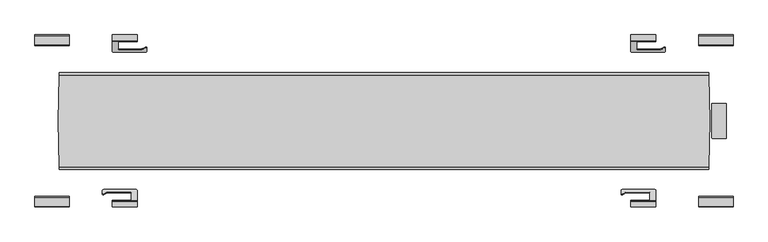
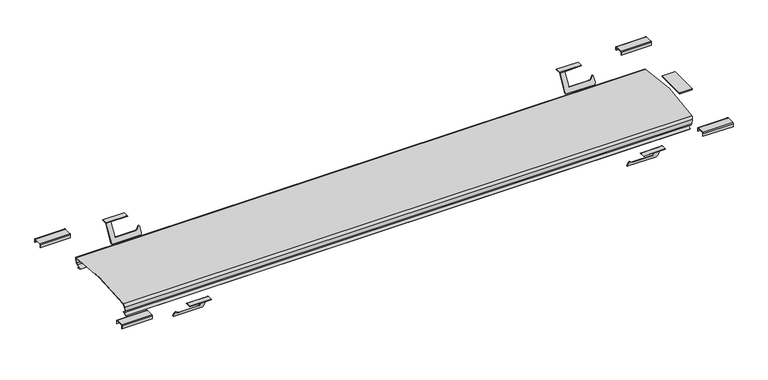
"""IFC4 building model written with IfcOpenShell, lengths in millimetres: light fixture geometry."""

from ifc_helpers import new_model, si_unit, point, frame, frame_2d, origin, origin_with_axes, place, context, project, spatial, polyline, circle_curve, ellipse_curve, trimmed, segment, composite_curve, outline, extrude, source, transform, mapped, element, save
from ifc_brep_helpers import plane_surface, cylinder_surface, revolved_surface, advanced_brep


def light_fixture_525445fe(model_context):
    return source(origin(), model_context, "Body", "SolidModel", [
        extrude(outline(composite_curve([segment(trimmed(circle_curve(frame_2d((593.4860566, 32.8813286)), 0.79375), [point((593.4860566, 33.6750786))], [point((594.2798066, 32.8813286))], False, "CARTESIAN"), True, "CONTINUOUS"), segment(polyline([(594.2798066, 32.8813286), (594.2798066, -25.7936714)]), True, "CONTINUOUS"), segment(trimmed(circle_curve(frame_2d((593.4860566, -25.7936714)), 0.79375), [point((594.2798066, -25.7936714))], [point((593.4860566, -26.5874214))], False, "CARTESIAN"), True, "CONTINUOUS"), segment(polyline([(593.4860566, -26.5874214), (569.7110566, -26.5874214)]), True, "CONTINUOUS"), segment(trimmed(circle_curve(frame_2d((569.7110566, -25.7936714)), 0.79375), [point((569.7110566, -26.5874214))], [point((568.9173066, -25.7936714))], False, "CARTESIAN"), True, "CONTINUOUS"), segment(polyline([(568.9173066, -25.7936714), (568.9173066, 32.8813286)]), True, "CONTINUOUS"), segment(trimmed(circle_curve(frame_2d((569.7110566, 32.8813286)), 0.79375), [point((568.9173066, 32.8813286))], [point((569.7110566, 33.6750786))], False, "CARTESIAN"), True, "CONTINUOUS"), segment(polyline([(569.7110566, 33.6750786), (593.4860566, 33.6750786)]), True, "CONTINUOUS")], self_intersect=False)), origin_with_axes(), (0.0, 0.0, 1.0), 1.984375),
        advanced_brep(
        [(-560.7049594, -78.4782255, -30.5886096), (-561.3946827, -80.5144833, -26.6769947), (-562.975013, -80.5144833, -17.7144962), (-563.7968268, -76.7312326, -13.0537584), (-563.802569, 83.6637386, -13.0211931), (-562.9727304, 87.4855167, -17.7274414), (-561.3743998, 87.4855167, -26.7920248), (-560.6846765, 85.4492589, -30.7036397), (-559.9280968, 79.3213945, -34.9944165), (-559.4545356, 85.9565252, -37.6801157), (-559.2923672, 85.5842575, -38.5998182), (-559.8867318, 77.256535, -35.2290094), (-560.8279867, 84.8801635, -29.8908873), (-561.3743998, 86.4933292, -26.7920248), (-562.9727304, 86.4933292, -17.7274414), (-563.6313431, 83.4601226, -13.9922629), (-563.6256156, -76.5272223, -14.0247455), (-562.975013, -79.5222958, -17.7144962), (-561.3946827, -79.5222958, -26.6769947), (-560.8482696, -77.9091301, -29.7758572), (-559.8867318, -70.1212216, -35.2290094), (-559.2923672, -78.4489441, -38.5998182), (-559.4545356, -78.8212117, -37.6801157), (-559.9280968, -72.186081, -34.9944165), (561.3946827, -80.5144833, -26.6769947), (560.7049594, -78.4782255, -30.5886096), (559.9280968, -72.186081, -34.9944165), (559.4545356, -78.8212117, -37.6801157), (559.2923672, -78.4489441, -38.5998182), (559.8867318, -70.1212216, -35.2290094), (560.8482696, -77.9091301, -29.7758572), (561.3946827, -79.5222958, -26.6769947), (562.975013, -79.5222958, -17.7144962), (563.6256156, -76.5272223, -14.0247455), (563.6313431, 83.4601226, -13.9922629), (562.9727304, 86.4933292, -17.7274414), (561.3743998, 86.4933292, -26.7920248), (560.8279867, 84.8801635, -29.8908873), (559.8867318, 77.256535, -35.2290094), (559.2923672, 85.5842575, -38.5998182), (559.4545356, 85.9565252, -37.6801157), (559.9280968, 79.3213945, -34.9944165), (560.6846765, 85.4492589, -30.7036397), (561.3743998, 87.4855167, -26.7920248), (562.9727304, 87.4855167, -17.7274414), (563.802569, 83.6637386, -13.0211931), (563.7968268, -76.7312326, -13.0537584), (562.975013, -80.5144833, -17.7144962)],
        [
            (0, 1, ellipse_curve(frame((-561.3946827, -75.7392833, -26.6769947), z_axis=(-0.9848077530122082, 0.0, -0.1736481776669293), x_axis=(0.1736481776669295, 0.0, -0.9848077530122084)), 4.8488652, 4.7752)),
            (1, 2),
            (2, 3, ellipse_curve(frame((-562.975013, -75.7519833, -17.7144962), z_axis=(-0.9848077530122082, 0.0, -0.1736481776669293), x_axis=(0.1736481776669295, 0.0, -0.9848077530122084)), 4.8359692, 4.7625)),
            (3, 4, ellipse_curve(frame((-496.4277167, 3.5438286, -395.1229676), z_axis=(-0.9848077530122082, 0.0, -0.1736481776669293), x_axis=(0.1736481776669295, 0.0, -0.9848077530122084)), 396.4340014, 390.4112781)),
            (4, 5, ellipse_curve(frame((-562.9727304, 82.6769225, -17.7274414), z_axis=(-0.9848077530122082, 0.0, -0.1736481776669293), x_axis=(0.1736481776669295, 0.0, -0.9848077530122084)), 4.8827746, 4.8085943)),
            (5, 6),
            (6, 7, ellipse_curve(frame((-561.3743998, 82.7103167, -26.7920248), z_axis=(-0.9848077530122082, 0.0, -0.1736481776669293), x_axis=(0.1736481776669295, 0.0, -0.9848077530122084)), 4.8488652, 4.7752)),
            (7, 8),
            (8, 9),
            (9, 10),
            (10, 11),
            (11, 12),
            (12, 13, ellipse_curve(frame((-561.3743998, 82.7103167, -26.7920248), z_axis=(0.9848077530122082, 0.0, 0.1736481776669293), x_axis=(-0.1736481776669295, 0.0, 0.9848077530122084)), 3.8413716, 3.7830125)),
            (13, 14),
            (14, 15, ellipse_curve(frame((-562.9727304, 82.6769225, -17.7274414), z_axis=(0.9848077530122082, 0.0, 0.1736481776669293), x_axis=(-0.1736481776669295, 0.0, 0.9848077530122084)), 3.875281, 3.8164068)),
            (15, 16, ellipse_curve(frame((-496.4277167, 3.5438286, -395.1229676), z_axis=(0.9848077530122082, 0.0, 0.1736481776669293), x_axis=(-0.1736481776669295, 0.0, 0.9848077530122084)), 395.4265078, 389.4190906)),
            (16, 17, ellipse_curve(frame((-562.975013, -75.7519833, -17.7144962), z_axis=(0.9848077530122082, 0.0, 0.1736481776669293), x_axis=(-0.1736481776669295, 0.0, 0.9848077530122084)), 3.8284756, 3.7703125)),
            (17, 18),
            (18, 19, ellipse_curve(frame((-561.3946827, -75.7392833, -26.6769947), z_axis=(0.9848077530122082, 0.0, 0.1736481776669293), x_axis=(-0.1736481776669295, 0.0, 0.9848077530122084)), 3.8413716, 3.7830125)),
            (19, 20),
            (20, 21),
            (21, 22),
            (22, 23),
            (23, 0),
            (24, 25, ellipse_curve(frame((561.3946827, -75.7392833, -26.6769947), z_axis=(0.9848077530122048, 0.0, -0.17364817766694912), x_axis=(0.17364817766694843, 0.0, 0.9848077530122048)), 4.8488652, 4.7752)),
            (25, 26),
            (26, 27),
            (27, 28),
            (28, 29),
            (29, 30),
            (30, 31, ellipse_curve(frame((561.3946827, -75.7392833, -26.6769947), z_axis=(-0.9848077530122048, 0.0, 0.17364817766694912), x_axis=(-0.17364817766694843, 0.0, -0.9848077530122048)), 3.8413716, 3.7830125)),
            (31, 32),
            (32, 33, ellipse_curve(frame((562.975013, -75.7519833, -17.7144962), z_axis=(-0.9848077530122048, 0.0, 0.17364817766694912), x_axis=(-0.17364817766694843, 0.0, -0.9848077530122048)), 3.8284756, 3.7703125)),
            (33, 34, ellipse_curve(frame((496.4277167, 3.5438286, -395.1229676), z_axis=(-0.9848077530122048, 0.0, 0.17364817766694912), x_axis=(-0.17364817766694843, 0.0, -0.9848077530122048)), 395.4265078, 389.4190906)),
            (34, 35, ellipse_curve(frame((562.9727304, 82.6769225, -17.7274414), z_axis=(-0.9848077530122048, 0.0, 0.17364817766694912), x_axis=(-0.17364817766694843, 0.0, -0.9848077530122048)), 3.875281, 3.8164068)),
            (35, 36),
            (36, 37, ellipse_curve(frame((561.3743998, 82.7103167, -26.7920248), z_axis=(-0.9848077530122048, 0.0, 0.17364817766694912), x_axis=(-0.17364817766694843, 0.0, -0.9848077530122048)), 3.8413716, 3.7830125)),
            (37, 38),
            (38, 39),
            (39, 40),
            (40, 41),
            (41, 42),
            (42, 43, ellipse_curve(frame((561.3743998, 82.7103167, -26.7920248), z_axis=(0.9848077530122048, 0.0, -0.17364817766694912), x_axis=(0.17364817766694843, 0.0, 0.9848077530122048)), 4.8488652, 4.7752)),
            (43, 44),
            (44, 45, ellipse_curve(frame((562.9727304, 82.6769225, -17.7274414), z_axis=(0.9848077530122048, 0.0, -0.17364817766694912), x_axis=(0.17364817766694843, 0.0, 0.9848077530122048)), 4.8827746, 4.8085943)),
            (45, 46, ellipse_curve(frame((496.4277167, 3.5438286, -395.1229676), z_axis=(0.9848077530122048, 0.0, -0.17364817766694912), x_axis=(0.17364817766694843, 0.0, 0.9848077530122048)), 396.4340014, 390.4112781)),
            (46, 47, ellipse_curve(frame((562.975013, -75.7519833, -17.7144962), z_axis=(0.9848077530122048, 0.0, -0.17364817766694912), x_axis=(0.17364817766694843, 0.0, 0.9848077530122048)), 4.8359692, 4.7625)),
            (47, 24),
            (24, 1),
            (0, 25),
            (23, 26),
            (22, 27),
            (21, 28),
            (20, 29),
            (19, 30),
            (18, 31),
            (17, 32),
            (16, 33),
            (15, 34),
            (14, 35),
            (13, 36),
            (12, 37),
            (11, 38),
            (10, 39),
            (9, 40),
            (8, 41),
            (7, 42),
            (6, 43),
            (5, 44),
            (4, 45),
            (3, 46),
            (2, 47),
        ],
        [
            plane_surface(frame((-553.5196929, -146.9710151, -71.3382813), z_axis=(-0.9848077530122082, 0.0, -0.1736481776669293), x_axis=(0.0, 1.0, 0.0))),
            plane_surface(frame((573.6738668, -146.9710151, 42.9617187), z_axis=(0.9848077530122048, 0.0, -0.17364817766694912), x_axis=(0.0, 1.0, 0.0))),
            cylinder_surface(frame((-606.5738281, -75.7392833, -26.6769947), z_axis=(1.0, 0.0, 0.0), x_axis=(0.0, 1.0, 0.0)), 4.7752),
            plane_surface(frame((566.0976563, -78.4782255, -30.5886096), z_axis=(0.0, -0.5735764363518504, -0.8191520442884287), x_axis=(-1.0, 0.0, 0.0))),
            plane_surface(frame((566.0976563, -72.186081, -34.9944165), z_axis=(0.0, -0.3751988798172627, 0.9269443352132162), x_axis=(-1.0, 0.0, 0.0))),
            plane_surface(frame((566.0976563, -78.8212117, -37.6801157), z_axis=(0.0, -0.9269443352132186, -0.37519887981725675), x_axis=(-1.0, 0.0, 0.0))),
            plane_surface(frame((566.0976563, -78.4489441, -38.5998182), z_axis=(0.0, 0.3751988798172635, -0.9269443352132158), x_axis=(-1.0, 0.0, 0.0))),
            plane_surface(frame((566.0976563, -70.1212216, -35.2290094), z_axis=(0.0, 0.5735764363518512, 0.8191520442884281), x_axis=(-1.0, 0.0, 0.0))),
            revolved_surface(polyline([(-562.0617298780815, -71.9562708, -26.6769947), (562.0617298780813, -71.9562708, -26.6769947)]), (-606.5738281, -75.7392833, -26.6769947), (-1.0, 0.0, 0.0)),
            plane_surface(frame((566.0976563, -79.5222958, -26.6769947), z_axis=(0.0, 1.0, 0.0), x_axis=(-1.0, 0.0, 0.0))),
            revolved_surface(polyline([(-563.6398208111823, -71.9816708, -17.7144962), (563.6398208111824, -71.9816708, -17.7144962)]), (-606.5738281, -75.7519833, -17.7144962), (-1.0, 0.0, 0.0)),
            revolved_surface(polyline([(-565.0928091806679, 392.9629192, -395.1229676), (565.0928091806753, 392.9629192, -395.1229676)]), (-606.5738281, 3.5438286, -395.1229676), (-1.0, 0.0, 0.0)),
            revolved_surface(polyline([(-563.6456658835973, 86.4933293, -17.7274414), (563.6456658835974, 86.4933293, -17.7274414)]), (-606.5738281, 82.6769225, -17.7274414), (-1.0, 0.0, 0.0)),
            plane_surface(frame((566.0976563, 86.4933292, -17.7274414), z_axis=(0.0, -1.0, 1.0247541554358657e-12), x_axis=(-1.0, 0.0, 0.0))),
            revolved_surface(polyline([(-562.0414469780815, 86.4933292, -26.7920248), (562.0414469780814, 86.4933292, -26.7920248)]), (-606.5738281, 82.7103167, -26.7920248), (-1.0, 0.0, 0.0)),
            plane_surface(frame((566.0976563, 84.8801635, -29.8908873), z_axis=(0.0, -0.5735764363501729, 0.8191520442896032), x_axis=(-1.0, 0.0, 0.0))),
            plane_surface(frame((566.0976563, 77.256535, -35.2290094), z_axis=(0.0, -0.37519887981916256, -0.9269443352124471), x_axis=(-1.0, 0.0, 0.0))),
            plane_surface(frame((566.0976563, 85.5842575, -38.5998182), z_axis=(0.0, 0.9269443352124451, -0.3751988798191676), x_axis=(-1.0, 0.0, 0.0))),
            plane_surface(frame((566.0976563, 85.9565252, -37.6801157), z_axis=(0.0, 0.37519887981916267, 0.9269443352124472), x_axis=(-1.0, 0.0, 0.0))),
            plane_surface(frame((566.0976563, 79.3213945, -34.9944165), z_axis=(0.0, 0.5735764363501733, -0.819152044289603), x_axis=(-1.0, 0.0, 0.0))),
            cylinder_surface(frame((-606.5738281, 82.7103167, -26.7920248), z_axis=(1.0, 0.0, 0.0), x_axis=(0.0, 1.0, 0.0)), 4.7752),
            plane_surface(frame((566.0976563, 87.4855167, -26.7920248), z_axis=(0.0, 1.0, -1.0247541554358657e-12), x_axis=(-1.0, 0.0, 0.0))),
            cylinder_surface(frame((-606.5738281, 82.6769225, -17.7274414), z_axis=(1.0, 0.0, 0.0), x_axis=(0.0, 1.0, 0.0)), 4.8085943),
            cylinder_surface(frame((-606.5738281, 3.5438286, -395.1229676), z_axis=(1.0, 0.0, 0.0), x_axis=(0.0, 1.0, 0.0)), 390.4112781),
            cylinder_surface(frame((-606.5738281, -75.7519833, -17.7144962), z_axis=(1.0, 0.0, 0.0), x_axis=(0.0, 1.0, 0.0)), 4.7625),
            plane_surface(frame((566.0976563, -80.5144833, -17.7144962), z_axis=(0.0, -1.0, 0.0), x_axis=(-1.0, 0.0, 0.0))),
        ],
        [
            (0, [[1, 2, 3, 4, 5, 6, 7, 8, 9, 10, 11, 12, 13, 14, 15, 16, 17, 18, 19, 20, 21, 22, 23, 24]]),
            (1, [[25, 26, 27, 28, 29, 30, 31, 32, 33, 34, 35, 36, 37, 38, 39, 40, 41, 42, 43, 44, 45, 46, 47, 48]]),
            (2, [[49, -1, 50, -25]]),
            (3, [[-50, -24, 51, -26]]),
            (4, [[-51, -23, 52, -27]]),
            (5, [[-52, -22, 53, -28]]),
            (6, [[-53, -21, 54, -29]]),
            (7, [[-54, -20, 55, -30]]),
            (8, [[-55, -19, 56, -31]]),
            (9, [[-56, -18, 57, -32]]),
            (10, [[-57, -17, 58, -33]]),
            (11, [[-58, -16, 59, -34]]),
            (12, [[-59, -15, 60, -35]]),
            (13, [[-60, -14, 61, -36]]),
            (14, [[-61, -13, 62, -37]]),
            (15, [[-62, -12, 63, -38]]),
            (16, [[-63, -11, 64, -39]]),
            (17, [[-64, -10, 65, -40]]),
            (18, [[-65, -9, 66, -41]]),
            (19, [[-66, -8, 67, -42]]),
            (20, [[-67, -7, 68, -43]]),
            (21, [[-68, -6, 69, -44]]),
            (22, [[-69, -5, 70, -45]]),
            (23, [[-70, -4, 71, -46]]),
            (24, [[-71, -3, 72, -47]]),
            (25, [[-49, -48, -72, -2]]),
        ],
    ),
        advanced_brep(
        [(478.8917139, 128.7700871, -33.398086), (478.8917139, 127.8535436, -33.398086), (483.1855578, 129.0313367, -31.3580883), (483.1855578, 129.9478803, -31.3580883), (485.5308255, 130.6930123, -28.4799818), (485.5308255, 131.6095558, -28.4799818), (488.4270722, 130.0979917, -29.5105878), (488.4270722, 131.0145352, -29.5105878), (488.4270722, 124.7374191, -38.7953718), (488.4270722, 125.6539627, -38.7953718), (486.5361116, 122.9383419, -41.911465), (484.914104, 123.6257495, -42.30834), (428.4270722, 124.3814405, -39.4119449), (428.4270722, 125.297984, -39.4119449), (431.3234673, 123.6257495, -42.30834), (429.8600795, 122.9383419, -41.911465), (428.4270722, 141.9415304, -8.996977), (428.4270722, 142.9538742, -8.4125), (428.4270722, 153.2649224, -8.4125), (428.4270722, 153.2649224, -9.20625), (428.4270722, 142.7372501, -9.20625), (471.4270722, 153.2649224, -8.4125), (471.4270722, 142.9538742, -8.4125), (471.4270722, 141.9415304, -8.996977), (471.4270722, 141.8207066, -9.20625), (471.4270722, 153.2649224, -9.20625), (438.4270722, 142.7372501, -9.20625), (438.4270722, 141.8207066, -9.20625), (438.4270722, 128.7700871, -31.810586), (438.4270722, 129.6866307, -31.810586), (440.0145722, 127.8535436, -33.398086), (440.0145722, 128.7700871, -33.398086)],
        [
            (0, 1),
            (1, 2, ellipse_curve(frame((478.8917139, 131.0514289, -27.8591861), z_axis=(0.0, -0.8660254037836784, 0.5000000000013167), x_axis=(0.0, -0.5000000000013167, -0.8660254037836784)), 6.3957706, 5.5388999)),
            (2, 3),
            (3, 0, ellipse_curve(frame((478.8917139, 131.9679724, -27.8591861), z_axis=(0.0, 0.8660254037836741, -0.5000000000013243), x_axis=(0.0, -0.5000000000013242, -0.8660254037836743)), 6.3957706, 5.5388999)),
            (2, 4),
            (4, 5),
            (5, 3),
            (4, 6, ellipse_curve(frame((486.7955825, 130.0979917, -29.5105878), z_axis=(0.0, 0.8660254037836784, -0.5000000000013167), x_axis=(0.0, 0.5000000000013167, 0.8660254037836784)), 1.8838821, 1.6314898)),
            (6, 7),
            (7, 5, ellipse_curve(frame((486.7955825, 131.0145352, -29.5105878), z_axis=(0.0, -0.8660254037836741, 0.5000000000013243), x_axis=(0.0, 0.5000000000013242, 0.8660254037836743)), 1.8838821, 1.6314898)),
            (6, 8),
            (8, 9),
            (9, 7),
            (8, 10, ellipse_curve(frame((484.914104, 124.7374191, -38.7953718), z_axis=(0.0, 0.8660254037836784, -0.5000000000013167), x_axis=(0.0, 0.5000000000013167, 0.8660254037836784)), 4.0564263, 3.5129682)),
            (10, 11, ellipse_curve(frame((484.914104, 117.5411101, -38.7953718), z_axis=(0.0, 0.5000000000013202, 0.8660254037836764), x_axis=(0.0, 0.8660254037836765, -0.5000000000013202)), 7.0259365, 3.5129682)),
            (11, 9, ellipse_curve(frame((484.914104, 125.6539627, -38.7953718), z_axis=(0.0, -0.8660254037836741, 0.5000000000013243), x_axis=(0.0, 0.5000000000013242, 0.8660254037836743)), 4.0564263, 3.5129682)),
            (12, 13),
            (13, 14, ellipse_curve(frame((431.3234673, 125.297984, -39.4119449), z_axis=(0.0, -0.8660254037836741, 0.5000000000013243), x_axis=(0.0, 0.5000000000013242, 0.8660254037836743)), 3.344469, 2.8963951)),
            (14, 15, ellipse_curve(frame((431.3234673, 118.6090461, -39.4119449), z_axis=(0.0, 0.5000000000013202, 0.8660254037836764), x_axis=(0.0, 0.8660254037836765, -0.5000000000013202)), 5.7927902, 2.8963951)),
            (15, 12, ellipse_curve(frame((431.3234673, 124.3814405, -39.4119449), z_axis=(0.0, 0.8660254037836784, -0.5000000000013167), x_axis=(0.0, 0.5000000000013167, 0.8660254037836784)), 3.344469, 2.8963951)),
            (12, 16),
            (16, 17, circle_curve(frame((428.4270722, 142.9538742, -9.5814539), z_axis=(-1.0, 0.0, 0.0), x_axis=(0.0, 1.0, 0.0)), 1.1689539)),
            (17, 18),
            (18, 19),
            (19, 20),
            (20, 13),
            (21, 22),
            (22, 23, circle_curve(frame((471.4270722, 142.9538742, -9.5814539), z_axis=(1.0, 0.0, 0.0), x_axis=(0.0, 1.0, 0.0)), 1.1689539)),
            (23, 24),
            (24, 25),
            (25, 21),
            (26, 27),
            (27, 28),
            (28, 29),
            (29, 26),
            (28, 30, ellipse_curve(frame((440.0145722, 128.7700871, -31.810586), z_axis=(0.0, -0.8660254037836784, 0.5000000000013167), x_axis=(0.0, -0.5000000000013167, -0.8660254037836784)), 1.8330871, 1.5875)),
            (30, 31),
            (31, 29, ellipse_curve(frame((440.0145722, 129.6866307, -31.810586), z_axis=(0.0, 0.8660254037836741, -0.5000000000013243), x_axis=(0.0, -0.5000000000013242, -0.8660254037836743)), 1.8330871, 1.5875)),
            (0, 31),
            (30, 1),
            (21, 18),
            (17, 22),
            (16, 23),
            (15, 10),
            (27, 24),
            (14, 11),
            (20, 26),
            (19, 25),
        ],
        [
            revolved_surface(polyline([(484.4306138, 127.85354359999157, -27.8591861), (484.4306138, 135.16585770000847, -27.8591861)]), (478.8917139, 3.5438286, -27.8591861), (0.0, -1.0, 0.0)),
            plane_surface(frame((483.1855578, 3.5438286, -31.3580883), z_axis=(-0.7752160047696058, 0.0, 0.631696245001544), x_axis=(0.0, 1.0, 0.0))),
            cylinder_surface(frame((486.7955825, 3.5438286, -29.5105878), z_axis=(0.0, 1.0, 0.0), x_axis=(1.0, 0.0, 0.0)), 1.6314898),
            plane_surface(frame((488.4270722, 3.5438286, -29.5105878), z_axis=(1.0, 0.0, 0.0), x_axis=(0.0, 1.0, 0.0))),
            cylinder_surface(frame((484.914104, 3.5438286, -38.7953718), z_axis=(0.0, 1.0, 0.0), x_axis=(1.0, 0.0, 0.0)), 3.5129682),
            cylinder_surface(frame((431.3234673, 3.5438286, -39.4119449), z_axis=(0.0, 1.0, 0.0), x_axis=(1.0, 0.0, 0.0)), 2.8963951),
            plane_surface(frame((428.4270722, 3.5438286, -39.4119449), z_axis=(-1.0, 0.0, 0.0), x_axis=(0.0, 1.0, 0.0))),
            plane_surface(frame((471.4270722, 3.5438286, -5.4585728), z_axis=(1.0, 0.0, 0.0), x_axis=(0.0, 1.0, 0.0))),
            plane_surface(frame((438.4270722, 3.5438286, -9.20625), z_axis=(1.0, 0.0, 0.0), x_axis=(0.0, 1.0, 0.0))),
            revolved_surface(polyline([(441.60207219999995, 127.8535435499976, -31.810586), (441.60207219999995, 130.60317425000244, -31.810586)]), (440.0145722, 3.5438286, -31.810586), (0.0, -1.0, 0.0)),
            plane_surface(frame((440.0145722, 3.5438286, -33.398086), z_axis=(0.0, 0.0, 1.0), x_axis=(0.0, 1.0, 0.0))),
            plane_surface(frame((491.8820313, 153.2649224, -8.4125), z_axis=(0.0, 0.0, 1.0), x_axis=(-1.0, 0.0, 0.0))),
            cylinder_surface(frame((408.446111, 142.9538742, -9.5814539), z_axis=(1.0, 0.0, 0.0), x_axis=(0.0, 1.0, 0.0)), 1.1689539),
            plane_surface(frame((491.8820313, 141.9415304, -8.996977), z_axis=(0.0, -0.8660254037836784, 0.5000000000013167), x_axis=(-1.0, 0.0, 0.0))),
            plane_surface(frame((491.8820313, 122.9383419, -41.911465), z_axis=(0.0, -0.5000000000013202, -0.8660254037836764), x_axis=(-1.0, 0.0, 0.0))),
            plane_surface(frame((491.8820313, 123.6257495, -42.30834), z_axis=(0.0, 0.8660254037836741, -0.5000000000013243), x_axis=(-1.0, 0.0, 0.0))),
            plane_surface(frame((491.8820313, 142.7372501, -9.20625), z_axis=(0.0, 0.0, -1.0), x_axis=(-1.0, 0.0, 0.0))),
            plane_surface(frame((491.8820313, 153.2649224, -9.20625), z_axis=(0.0, 1.0, 0.0), x_axis=(-1.0, 0.0, 0.0))),
        ],
        [
            (0, [[1, 2, 3, 4]]),
            (1, [[-3, 5, 6, 7]]),
            (2, [[-6, 8, 9, 10]]),
            (3, [[-9, 11, 12, 13]]),
            (4, [[-12, 14, 15, 16]]),
            (5, [[17, 18, 19, 20]]),
            (6, [[-17, 21, 22, 23, 24, 25, 26]]),
            (7, [[27, 28, 29, 30, 31]]),
            (8, [[32, 33, 34, 35]]),
            (9, [[-34, 36, 37, 38]]),
            (10, [[-1, 39, -37, 40]]),
            (11, [[41, -23, 42, -27]]),
            (12, [[-42, -22, 43, -28]]),
            (13, [[-43, -21, -20, 44, -14, -11, -8, -5, -2, -40, -36, -33, 45, -29]]),
            (14, [[-44, -19, 46, -15]]),
            (15, [[-46, -18, -26, 47, -35, -38, -39, -4, -7, -10, -13, -16]]),
            (16, [[-47, -25, 48, -30, -45, -32]]),
            (17, [[-41, -31, -48, -24]]),
        ],
    ),
        advanced_brep(
        [(471.4270722, -146.1772651, -8.4125), (428.4270722, -146.1772651, -8.4125), (428.4270722, -146.1772651, -9.20625), (471.4270722, -146.1772651, -9.20625), (428.4270722, -134.7330494, -9.20625), (461.4270722, -134.7330494, -9.20625), (461.4270722, -135.6495929, -9.20625), (471.4270722, -135.6495929, -9.20625), (461.4270722, -122.5989735, -31.810586), (459.8395722, -121.6824299, -33.398086), (420.9624305, -121.6824299, -33.398086), (416.6685867, -122.8602231, -31.3580883), (414.323319, -124.5218986, -28.4799818), (411.4270722, -123.926878, -29.5105878), (411.4270722, -118.5663055, -38.7953718), (414.9400405, -116.5380923, -42.30834), (468.5306771, -116.5380923, -42.30834), (471.4270722, -118.2103268, -39.4119449), (413.3180328, -115.8506847, -41.911465), (469.9940649, -115.8506847, -41.911465), (411.4270722, -117.6497619, -38.7953718), (411.4270722, -123.0103345, -29.5105878), (414.323319, -123.6053551, -28.4799818), (416.6685867, -121.9436795, -31.3580883), (420.9624305, -120.7658863, -33.398086), (459.8395722, -120.7658863, -33.398086), (461.4270722, -121.6824299, -31.810586), (428.4270722, -134.8538732, -8.996977), (471.4270722, -134.8538732, -8.996977), (471.4270722, -117.2937833, -39.4119449), (428.4270722, -135.866217, -8.4125), (471.4270722, -135.866217, -8.4125)],
        [
            (0, 1),
            (1, 2),
            (2, 3),
            (3, 0),
            (4, 5),
            (5, 6),
            (6, 7),
            (7, 3),
            (2, 4),
            (6, 8),
            (8, 9, ellipse_curve(frame((459.8395722, -122.5989735, -31.810586), z_axis=(0.0, 0.8660254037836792, 0.5000000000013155), x_axis=(0.0, -0.5000000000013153, 0.8660254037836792)), 1.8330871, 1.5875)),
            (9, 10),
            (10, 11, ellipse_curve(frame((420.9624305, -124.8803152, -27.8591861), z_axis=(0.0, 0.8660254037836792, 0.5000000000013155), x_axis=(0.0, -0.5000000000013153, 0.8660254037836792)), 6.3957706, 5.5388999)),
            (11, 12),
            (12, 13, ellipse_curve(frame((413.058562, -123.926878, -29.5105878), z_axis=(0.0, -0.8660254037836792, -0.5000000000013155), x_axis=(0.0, 0.5000000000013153, -0.8660254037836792)), 1.8838821, 1.6314898)),
            (13, 14),
            (14, 15, ellipse_curve(frame((414.9400405, -118.5663055, -38.7953718), z_axis=(0.0, -0.8660254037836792, -0.5000000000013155), x_axis=(0.0, 0.5000000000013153, -0.8660254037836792)), 4.0564263, 3.5129682)),
            (15, 16),
            (16, 17, ellipse_curve(frame((468.5306771, -118.2103268, -39.4119449), z_axis=(0.0, -0.8660254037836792, -0.5000000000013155), x_axis=(0.0, 0.5000000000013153, -0.8660254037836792)), 3.344469, 2.8963951)),
            (17, 7),
            (15, 18, ellipse_curve(frame((414.9400405, -110.4534529, -38.7953718), z_axis=(0.0, 0.5000000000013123, -0.8660254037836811), x_axis=(0.0, 0.866025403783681, 0.5000000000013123)), 7.0259365, 3.5129682)),
            (18, 19),
            (19, 16, ellipse_curve(frame((468.5306771, -111.5213889, -39.4119449), z_axis=(0.0, 0.5000000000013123, -0.8660254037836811), x_axis=(0.0, 0.866025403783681, 0.5000000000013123)), 5.7927902, 2.8963951)),
            (18, 20, ellipse_curve(frame((414.9400405, -117.6497619, -38.7953718), z_axis=(0.0, 0.8660254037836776, 0.5000000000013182), x_axis=(0.0, 0.5000000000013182, -0.8660254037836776)), 4.0564263, 3.5129682)),
            (20, 21),
            (21, 22, ellipse_curve(frame((413.058562, -123.0103345, -29.5105878), z_axis=(0.0, 0.8660254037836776, 0.5000000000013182), x_axis=(0.0, 0.5000000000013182, -0.8660254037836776)), 1.8838821, 1.6314898)),
            (22, 23),
            (23, 24, ellipse_curve(frame((420.9624305, -123.9637717, -27.8591861), z_axis=(0.0, -0.8660254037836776, -0.5000000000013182), x_axis=(0.0, -0.5000000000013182, 0.8660254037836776)), 6.3957706, 5.5388999)),
            (24, 25),
            (25, 26, ellipse_curve(frame((459.8395722, -121.6824299, -31.810586), z_axis=(0.0, -0.8660254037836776, -0.5000000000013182), x_axis=(0.0, -0.5000000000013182, 0.8660254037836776)), 1.8330871, 1.5875)),
            (26, 5),
            (4, 27),
            (27, 28),
            (28, 29),
            (29, 19, ellipse_curve(frame((468.5306771, -117.2937833, -39.4119449), z_axis=(0.0, 0.8660254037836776, 0.5000000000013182), x_axis=(0.0, 0.5000000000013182, -0.8660254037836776)), 3.344469, 2.8963951)),
            (27, 30, circle_curve(frame((428.4270722, -135.866217, -9.5814539), z_axis=(1.0, 0.0, 0.0), x_axis=(0.0, 1.0, 0.0)), 1.1689539)),
            (30, 31),
            (31, 28, circle_curve(frame((471.4270722, -135.866217, -9.5814539), z_axis=(-1.0, 0.0, 0.0), x_axis=(0.0, 1.0, 0.0)), 1.1689539)),
            (0, 31),
            (30, 1),
            (24, 10),
            (9, 25),
            (8, 26),
            (17, 29),
            (14, 20),
            (13, 21),
            (12, 22),
            (11, 23),
        ],
        [
            plane_surface(frame((491.8820313, -146.1772651, -8.4125), z_axis=(0.0, -1.0, 0.0), x_axis=(-1.0, 0.0, 0.0))),
            plane_surface(frame((491.8820313, -146.1772651, -9.20625), z_axis=(0.0, 0.0, -1.0), x_axis=(-1.0, 0.0, 0.0))),
            plane_surface(frame((491.8820313, -135.6495929, -9.20625), z_axis=(0.0, -0.8660254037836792, -0.5000000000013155), x_axis=(-1.0, 0.0, 0.0))),
            plane_surface(frame((491.8820313, -116.5380923, -42.30834), z_axis=(0.0, 0.5000000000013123, -0.8660254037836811), x_axis=(-1.0, 0.0, 0.0))),
            plane_surface(frame((491.8820313, -115.8506847, -41.911465), z_axis=(0.0, 0.8660254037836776, 0.5000000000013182), x_axis=(-1.0, 0.0, 0.0))),
            cylinder_surface(frame((900.1843365, -135.866217, -9.5814539), z_axis=(1.0, 0.0, 0.0), x_axis=(0.0, 1.0, 0.0)), 1.1689539),
            plane_surface(frame((491.8820313, -135.866217, -8.4125), z_axis=(0.0, 0.0, 1.0), x_axis=(-1.0, 0.0, 0.0))),
            plane_surface(frame((420.9624305, -146.9710151, -33.398086), z_axis=(0.0, 0.0, 1.0), x_axis=(0.0, 1.0, 0.0))),
            revolved_surface(polyline([(461.4270722, -123.51551705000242, -31.810586), (461.4270722, -120.7658863, -31.810586)]), (459.8395722, 3.5438286, -31.810586), (0.0, -1.0, 0.0)),
            plane_surface(frame((461.4270722, -146.9710151, -31.810586), z_axis=(-1.0, 0.0, 0.0), x_axis=(0.0, 1.0, 0.0))),
            plane_surface(frame((428.4270722, -146.9710151, -9.20625), z_axis=(-1.0, 0.0, 0.0), x_axis=(0.0, 1.0, 0.0))),
            plane_surface(frame((471.4270722, -146.9710151, -5.4585728), z_axis=(1.0, 0.0, 0.0), x_axis=(0.0, 1.0, 0.0))),
            cylinder_surface(frame((468.5306771, 3.5438286, -39.4119449), z_axis=(0.0, 1.0, 0.0), x_axis=(1.0, 0.0, 0.0)), 2.8963951),
            cylinder_surface(frame((414.9400405, 3.5438286, -38.7953718), z_axis=(0.0, 1.0, 0.0), x_axis=(1.0, 0.0, 0.0)), 3.5129682),
            plane_surface(frame((411.4270722, -146.9710151, -38.7953718), z_axis=(-1.0, 0.0, 0.0), x_axis=(0.0, 1.0, 0.0))),
            cylinder_surface(frame((413.058562, 3.5438286, -29.5105878), z_axis=(0.0, 1.0, 0.0), x_axis=(1.0, 0.0, 0.0)), 1.6314898),
            plane_surface(frame((414.323319, -146.9710151, -28.4799818), z_axis=(0.7752160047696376, 0.0, 0.6316962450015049), x_axis=(0.0, 1.0, 0.0))),
            revolved_surface(polyline([(426.5013304, -128.0782005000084, -27.8591861), (426.5013304, -120.7658863, -27.8591861)]), (420.9624305, 3.5438286, -27.8591861), (0.0, -1.0, 0.0)),
        ],
        [
            (0, [[1, 2, 3, 4]]),
            (1, [[5, 6, 7, 8, -3, 9]]),
            (2, [[-7, 10, 11, 12, 13, 14, 15, 16, 17, 18, 19, 20]]),
            (3, [[-18, 21, 22, 23]]),
            (4, [[-22, 24, 25, 26, 27, 28, 29, 30, 31, -5, 32, 33, 34, 35]]),
            (5, [[-33, 36, 37, 38]]),
            (6, [[-1, 39, -37, 40]]),
            (7, [[41, -12, 42, -29]]),
            (8, [[-42, -11, 43, -30]]),
            (9, [[-43, -10, -6, -31]]),
            (10, [[-9, -2, -40, -36, -32]]),
            (11, [[44, -34, -38, -39, -4, -8, -20]]),
            (12, [[-44, -19, -23, -35]]),
            (13, [[45, -24, -21, -17]]),
            (14, [[-45, -16, 46, -25]]),
            (15, [[-46, -15, 47, -26]]),
            (16, [[-47, -14, 48, -27]]),
            (17, [[-41, -28, -48, -13]]),
        ],
    ),
        advanced_brep(
        [(-479.0375695, -120.7658863, -33.398086), (-479.0375695, -121.6824299, -33.398086), (-440.1604278, -121.6824299, -33.398086), (-440.1604278, -120.7658863, -33.398086), (-438.5729278, -122.5989735, -31.810586), (-438.5729278, -121.6824299, -31.810586), (-438.5729278, -135.6495929, -9.20625), (-438.5729278, -134.7330494, -9.20625), (-428.5729278, -118.2103268, -39.4119449), (-428.5729278, -117.2937833, -39.4119449), (-428.5729278, -134.8538732, -8.996977), (-428.5729278, -135.866217, -8.4125), (-428.5729278, -146.1772651, -8.4125), (-428.5729278, -146.1772651, -9.20625), (-428.5729278, -135.6495929, -9.20625), (-431.4693229, -116.5380923, -42.30834), (-430.0059351, -115.8506847, -41.911465), (-488.5729278, -118.5663055, -38.7953718), (-488.5729278, -117.6497619, -38.7953718), (-486.6819672, -115.8506847, -41.911465), (-485.0599595, -116.5380923, -42.30834), (-488.5729278, -123.926878, -29.5105878), (-488.5729278, -123.0103345, -29.5105878), (-485.676681, -124.5218986, -28.4799818), (-485.676681, -123.6053551, -28.4799818), (-483.3314133, -122.8602231, -31.3580883), (-483.3314133, -121.9436795, -31.3580883), (-471.5729278, -146.1772651, -9.20625), (-471.5729278, -146.1772651, -8.4125), (-471.5729278, -135.866217, -8.4125), (-471.5729278, -134.8538732, -8.996977), (-471.5729278, -134.7330494, -9.20625)],
        [
            (0, 1),
            (1, 2),
            (2, 3),
            (3, 0),
            (2, 4, ellipse_curve(frame((-440.1604278, -122.5989735, -31.810586), z_axis=(0.0, -0.8660254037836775, -0.5000000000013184), x_axis=(0.0, -0.5000000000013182, 0.8660254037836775)), 1.8330871, 1.5875)),
            (4, 5),
            (5, 3, ellipse_curve(frame((-440.1604278, -121.6824299, -31.810586), z_axis=(0.0, 0.8660254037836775, 0.5000000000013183), x_axis=(0.0, -0.5000000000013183, 0.8660254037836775)), 1.8330871, 1.5875)),
            (4, 6),
            (6, 7),
            (7, 5),
            (8, 9),
            (9, 10),
            (10, 11, circle_curve(frame((-428.5729278, -135.866217, -9.5814539), z_axis=(1.0, 0.0, 0.0), x_axis=(0.0, 1.0, 0.0)), 1.1689539)),
            (11, 12),
            (12, 13),
            (13, 14),
            (14, 8),
            (8, 15, ellipse_curve(frame((-431.4693229, -118.2103268, -39.4119449), z_axis=(0.0, 0.8660254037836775, 0.5000000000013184), x_axis=(0.0, 0.5000000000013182, -0.8660254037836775)), 3.344469, 2.8963951)),
            (15, 16, ellipse_curve(frame((-431.4693229, -111.5213889, -39.4119449), z_axis=(0.0, -0.5000000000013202, 0.8660254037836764), x_axis=(0.0, 0.8660254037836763, 0.50000000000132)), 5.7927902, 2.8963951)),
            (16, 9, ellipse_curve(frame((-431.4693229, -117.2937833, -39.4119449), z_axis=(0.0, -0.8660254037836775, -0.5000000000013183), x_axis=(0.0, 0.5000000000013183, -0.8660254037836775)), 3.344469, 2.8963951)),
            (17, 18),
            (18, 19, ellipse_curve(frame((-485.0599595, -117.6497619, -38.7953718), z_axis=(0.0, -0.8660254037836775, -0.5000000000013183), x_axis=(0.0, 0.5000000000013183, -0.8660254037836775)), 4.0564263, 3.5129682)),
            (19, 20, ellipse_curve(frame((-485.0599595, -110.4534529, -38.7953718), z_axis=(0.0, -0.5000000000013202, 0.8660254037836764), x_axis=(0.0, 0.8660254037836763, 0.50000000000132)), 7.0259365, 3.5129682)),
            (20, 17, ellipse_curve(frame((-485.0599595, -118.5663055, -38.7953718), z_axis=(0.0, 0.8660254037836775, 0.5000000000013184), x_axis=(0.0, 0.5000000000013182, -0.8660254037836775)), 4.0564263, 3.5129682)),
            (17, 21),
            (21, 22),
            (22, 18),
            (21, 23, ellipse_curve(frame((-486.941438, -123.926878, -29.5105878), z_axis=(0.0, 0.8660254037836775, 0.5000000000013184), x_axis=(0.0, 0.5000000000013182, -0.8660254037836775)), 1.8838821, 1.6314898)),
            (23, 24),
            (24, 22, ellipse_curve(frame((-486.941438, -123.0103345, -29.5105878), z_axis=(0.0, -0.8660254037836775, -0.5000000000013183), x_axis=(0.0, 0.5000000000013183, -0.8660254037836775)), 1.8838821, 1.6314898)),
            (23, 25),
            (25, 26),
            (26, 24),
            (0, 26, ellipse_curve(frame((-479.0375695, -123.9637717, -27.8591861), z_axis=(0.0, 0.8660254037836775, 0.5000000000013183), x_axis=(0.0, -0.5000000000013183, 0.8660254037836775)), 6.3957706, 5.5388999)),
            (25, 1, ellipse_curve(frame((-479.0375695, -124.8803152, -27.8591861), z_axis=(0.0, -0.8660254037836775, -0.5000000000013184), x_axis=(0.0, -0.5000000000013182, 0.8660254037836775)), 6.3957706, 5.5388999)),
            (27, 28),
            (28, 29),
            (29, 30, circle_curve(frame((-471.5729278, -135.866217, -9.5814539), z_axis=(-1.0, 0.0, 0.0), x_axis=(0.0, 1.0, 0.0)), 1.1689539)),
            (30, 31),
            (31, 27),
            (12, 28),
            (27, 13),
            (6, 14),
            (31, 7),
            (20, 15),
            (19, 16),
            (30, 10),
            (29, 11),
        ],
        [
            plane_surface(frame((-479.0375695, -146.9710151, -33.398086), z_axis=(0.0, 0.0, 1.0), x_axis=(0.0, 1.0, 0.0))),
            revolved_surface(polyline([(-438.5729278, -123.51551705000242, -31.810586), (-438.5729278, -120.7658863, -31.810586)]), (-440.1604278, 3.5438286, -31.810586), (0.0, -1.0, 0.0)),
            plane_surface(frame((-438.5729278, -146.9710151, -31.810586), z_axis=(-1.0, 0.0, 0.0), x_axis=(0.0, 1.0, 0.0))),
            plane_surface(frame((-428.5729278, -146.9710151, -5.4585728), z_axis=(1.0, 0.0, 0.0), x_axis=(0.0, 1.0, 0.0))),
            cylinder_surface(frame((-431.4693229, 3.5438286, -39.4119449), z_axis=(0.0, 1.0, 0.0), x_axis=(1.0, 0.0, 0.0)), 2.8963951),
            cylinder_surface(frame((-485.0599595, 3.5438286, -38.7953718), z_axis=(0.0, 1.0, 0.0), x_axis=(1.0, 0.0, 0.0)), 3.5129682),
            plane_surface(frame((-488.5729278, -146.9710151, -38.7953718), z_axis=(-1.0, 0.0, 0.0), x_axis=(0.0, 1.0, 0.0))),
            cylinder_surface(frame((-486.941438, 3.5438286, -29.5105878), z_axis=(0.0, 1.0, 0.0), x_axis=(1.0, 0.0, 0.0)), 1.6314898),
            plane_surface(frame((-485.676681, -146.9710151, -28.4799818), z_axis=(0.7752160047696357, 0.0, 0.6316962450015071), x_axis=(0.0, 1.0, 0.0))),
            revolved_surface(polyline([(-473.4986696, -128.07820050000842, -27.8591861), (-473.4986696, -120.7658863, -27.8591861)]), (-479.0375695, 3.5438286, -27.8591861), (0.0, -1.0, 0.0)),
            plane_surface(frame((-471.5729278, -146.9710151, -9.20625), z_axis=(-1.0, 0.0, 0.0), x_axis=(0.0, 1.0, 0.0))),
            plane_surface(frame((-408.3023052, -146.1772651, -8.4125), z_axis=(0.0, -1.0, 0.0), x_axis=(-1.0, 0.0, 0.0))),
            plane_surface(frame((-408.3023052, -146.1772651, -9.20625), z_axis=(0.0, 0.0, -1.0), x_axis=(-1.0, 0.0, 0.0))),
            plane_surface(frame((-408.3023052, -135.6495929, -9.20625), z_axis=(0.0, -0.8660254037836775, -0.5000000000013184), x_axis=(-1.0, 0.0, 0.0))),
            plane_surface(frame((-408.3023052, -116.5380923, -42.30834), z_axis=(0.0, 0.5000000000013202, -0.8660254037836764), x_axis=(-1.0, 0.0, 0.0))),
            plane_surface(frame((-408.3023052, -115.8506847, -41.911465), z_axis=(0.0, 0.8660254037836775, 0.5000000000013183), x_axis=(-1.0, 0.0, 0.0))),
            cylinder_surface(frame((0.0, -135.866217, -9.5814539), z_axis=(1.0, 0.0, 0.0), x_axis=(0.0, 1.0, 0.0)), 1.1689539),
            plane_surface(frame((-408.3023052, -135.866217, -8.4125), z_axis=(0.0, 0.0, 1.0), x_axis=(-1.0, 0.0, 0.0))),
        ],
        [
            (0, [[1, 2, 3, 4]]),
            (1, [[-3, 5, 6, 7]]),
            (2, [[-6, 8, 9, 10]]),
            (3, [[11, 12, 13, 14, 15, 16, 17]]),
            (4, [[-11, 18, 19, 20]]),
            (5, [[21, 22, 23, 24]]),
            (6, [[-21, 25, 26, 27]]),
            (7, [[-26, 28, 29, 30]]),
            (8, [[-29, 31, 32, 33]]),
            (9, [[-1, 34, -32, 35]]),
            (10, [[36, 37, 38, 39, 40]]),
            (11, [[41, -36, 42, -15]]),
            (12, [[43, -16, -42, -40, 44, -9]]),
            (13, [[-43, -8, -5, -2, -35, -31, -28, -25, -24, 45, -18, -17]]),
            (14, [[-45, -23, 46, -19]]),
            (15, [[-46, -22, -27, -30, -33, -34, -4, -7, -10, -44, -39, 47, -12, -20]]),
            (16, [[-47, -38, 48, -13]]),
            (17, [[-41, -14, -48, -37]]),
        ],
    ),
        advanced_brep(
        [(-421.1082861, 128.7700871, -33.398086), (-421.1082861, 127.8535436, -33.398086), (-416.8144422, 129.0313367, -31.3580883), (-416.8144422, 129.9478803, -31.3580883), (-414.4691745, 130.6930123, -28.4799818), (-414.4691745, 131.6095558, -28.4799818), (-411.5729278, 130.0979917, -29.5105878), (-411.5729278, 131.0145352, -29.5105878), (-411.5729278, 124.7374191, -38.7953718), (-411.5729278, 125.6539627, -38.7953718), (-413.4638884, 122.9383419, -41.911465), (-415.085896, 123.6257495, -42.30834), (-471.5729278, 124.3814405, -39.4119449), (-471.5729278, 125.297984, -39.4119449), (-468.6765327, 123.6257495, -42.30834), (-470.1399205, 122.9383419, -41.911465), (-471.5729278, 141.9415304, -8.996977), (-471.5729278, 142.9538742, -8.4125), (-471.5729278, 153.2649224, -8.4125), (-471.5729278, 153.2649224, -9.20625), (-471.5729278, 142.7372501, -9.20625), (-428.5729278, 141.8207066, -9.20625), (-428.5729278, 153.2649224, -9.20625), (-428.5729278, 153.2649224, -8.4125), (-428.5729278, 142.9538742, -8.4125), (-428.5729278, 141.9415304, -8.996977), (-461.5729278, 142.7372501, -9.20625), (-461.5729278, 141.8207066, -9.20625), (-461.5729278, 128.7700871, -31.810586), (-461.5729278, 129.6866307, -31.810586), (-459.9854278, 127.8535436, -33.398086), (-459.9854278, 128.7700871, -33.398086)],
        [
            (0, 1),
            (1, 2, ellipse_curve(frame((-421.1082861, 131.0514289, -27.8591861), z_axis=(0.0, -0.8660254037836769, 0.5000000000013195), x_axis=(0.0, -0.5000000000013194, -0.866025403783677)), 6.3957706, 5.5388999)),
            (2, 3),
            (3, 0, ellipse_curve(frame((-421.1082861, 131.9679724, -27.8591861), z_axis=(0.0, 0.8660254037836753, -0.5000000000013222), x_axis=(0.0, -0.500000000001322, -0.8660254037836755)), 6.3957706, 5.5388999)),
            (2, 4),
            (4, 5),
            (5, 3),
            (4, 6, ellipse_curve(frame((-413.2044175, 130.0979917, -29.5105878), z_axis=(0.0, 0.8660254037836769, -0.5000000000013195), x_axis=(0.0, 0.5000000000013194, 0.866025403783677)), 1.8838821, 1.6314898)),
            (6, 7),
            (7, 5, ellipse_curve(frame((-413.2044175, 131.0145352, -29.5105878), z_axis=(0.0, -0.8660254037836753, 0.5000000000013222), x_axis=(0.0, 0.500000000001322, 0.8660254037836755)), 1.8838821, 1.6314898)),
            (6, 8),
            (8, 9),
            (9, 7),
            (8, 10, ellipse_curve(frame((-415.085896, 124.7374191, -38.7953718), z_axis=(0.0, 0.8660254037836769, -0.5000000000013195), x_axis=(0.0, 0.5000000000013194, 0.866025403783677)), 4.0564263, 3.5129682)),
            (10, 11, ellipse_curve(frame((-415.085896, 117.5411101, -38.7953718), z_axis=(0.0, 0.5000000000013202, 0.8660254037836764), x_axis=(0.0, 0.8660254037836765, -0.5000000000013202)), 7.0259365, 3.5129682)),
            (11, 9, ellipse_curve(frame((-415.085896, 125.6539627, -38.7953718), z_axis=(0.0, -0.8660254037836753, 0.5000000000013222), x_axis=(0.0, 0.500000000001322, 0.8660254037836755)), 4.0564263, 3.5129682)),
            (12, 13),
            (13, 14, ellipse_curve(frame((-468.6765327, 125.297984, -39.4119449), z_axis=(0.0, -0.8660254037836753, 0.5000000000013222), x_axis=(0.0, 0.500000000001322, 0.8660254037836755)), 3.344469, 2.8963951)),
            (14, 15, ellipse_curve(frame((-468.6765327, 118.6090461, -39.4119449), z_axis=(0.0, 0.5000000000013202, 0.8660254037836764), x_axis=(0.0, 0.8660254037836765, -0.5000000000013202)), 5.7927902, 2.8963951)),
            (15, 12, ellipse_curve(frame((-468.6765327, 124.3814405, -39.4119449), z_axis=(0.0, 0.8660254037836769, -0.5000000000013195), x_axis=(0.0, 0.5000000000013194, 0.866025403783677)), 3.344469, 2.8963951)),
            (12, 16),
            (16, 17, circle_curve(frame((-471.5729278, 142.9538742, -9.5814539), z_axis=(-1.0, 0.0, 0.0), x_axis=(0.0, 1.0, 0.0)), 1.1689539)),
            (17, 18),
            (18, 19),
            (19, 20),
            (20, 13),
            (21, 22),
            (22, 23),
            (23, 24),
            (24, 25, circle_curve(frame((-428.5729278, 142.9538742, -9.5814539), z_axis=(1.0, 0.0, 0.0), x_axis=(0.0, 1.0, 0.0)), 1.1689539)),
            (25, 21),
            (26, 27),
            (27, 28),
            (28, 29),
            (29, 26),
            (28, 30, ellipse_curve(frame((-459.9854278, 128.7700871, -31.810586), z_axis=(0.0, -0.8660254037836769, 0.5000000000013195), x_axis=(0.0, -0.5000000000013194, -0.866025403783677)), 1.8330871, 1.5875)),
            (30, 31),
            (31, 29, ellipse_curve(frame((-459.9854278, 129.6866307, -31.810586), z_axis=(0.0, 0.8660254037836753, -0.5000000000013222), x_axis=(0.0, -0.500000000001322, -0.8660254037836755)), 1.8330871, 1.5875)),
            (0, 31),
            (30, 1),
            (23, 18),
            (17, 24),
            (16, 25),
            (15, 10),
            (27, 21),
            (14, 11),
            (20, 26),
            (19, 22),
        ],
        [
            revolved_surface(polyline([(-415.5693862, 127.85354359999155, -27.8591861), (-415.5693862, 135.16585770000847, -27.8591861)]), (-421.1082861, 154.0586724, -27.8591861), (0.0, -1.0, 0.0)),
            plane_surface(frame((-416.8144422, 3.5438286, -31.3580883), z_axis=(-0.7752160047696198, 0.0, 0.6316962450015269), x_axis=(0.0, 1.0, 0.0))),
            cylinder_surface(frame((-413.2044175, 154.0586724, -29.5105878), z_axis=(0.0, 1.0, 0.0), x_axis=(1.0, 0.0, 0.0)), 1.6314898),
            plane_surface(frame((-411.5729278, 3.5438286, -29.5105878), z_axis=(1.0, 0.0, 0.0), x_axis=(0.0, 1.0, 0.0))),
            cylinder_surface(frame((-415.085896, 154.0586724, -38.7953718), z_axis=(0.0, 1.0, 0.0), x_axis=(1.0, 0.0, 0.0)), 3.5129682),
            cylinder_surface(frame((-468.6765327, 154.0586724, -39.4119449), z_axis=(0.0, 1.0, 0.0), x_axis=(1.0, 0.0, 0.0)), 2.8963951),
            plane_surface(frame((-471.5729278, 3.5438286, -39.4119449), z_axis=(-1.0, 0.0, 0.0), x_axis=(0.0, 1.0, 0.0))),
            plane_surface(frame((-428.5729278, 3.5438286, -5.4585728), z_axis=(1.0, 0.0, 0.0), x_axis=(0.0, 1.0, 0.0))),
            plane_surface(frame((-461.5729278, 3.5438286, -9.20625), z_axis=(1.0, 0.0, 0.0), x_axis=(0.0, 1.0, 0.0))),
            revolved_surface(polyline([(-458.39792780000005, 127.8535435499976, -31.810586), (-458.39792780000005, 130.6031742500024, -31.810586)]), (-459.9854278, 154.0586724, -31.810586), (0.0, -1.0, 0.0)),
            plane_surface(frame((-459.9854278, 3.5438286, -33.398086), z_axis=(0.0, 0.0, 1.0), x_axis=(0.0, 1.0, 0.0))),
            plane_surface(frame((-408.3023052, 153.2649224, -8.4125), z_axis=(0.0, 0.0, 1.0), x_axis=(-1.0, 0.0, 0.0))),
            cylinder_surface(frame((-491.7382255, 142.9538742, -9.5814539), z_axis=(1.0, 0.0, 0.0), x_axis=(0.0, 1.0, 0.0)), 1.1689539),
            plane_surface(frame((-408.3023052, 141.9415304, -8.996977), z_axis=(0.0, -0.8660254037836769, 0.5000000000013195), x_axis=(-1.0, 0.0, 0.0))),
            plane_surface(frame((-408.3023052, 122.9383419, -41.911465), z_axis=(0.0, -0.5000000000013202, -0.8660254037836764), x_axis=(-1.0, 0.0, 0.0))),
            plane_surface(frame((-408.3023052, 123.6257495, -42.30834), z_axis=(0.0, 0.8660254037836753, -0.5000000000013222), x_axis=(-1.0, 0.0, 0.0))),
            plane_surface(frame((-408.3023052, 142.7372501, -9.20625), z_axis=(0.0, 0.0, -1.0), x_axis=(-1.0, 0.0, 0.0))),
            plane_surface(frame((-408.3023052, 153.2649224, -9.20625), z_axis=(0.0, 1.0, 0.0), x_axis=(-1.0, 0.0, 0.0))),
        ],
        [
            (0, [[1, 2, 3, 4]]),
            (1, [[-3, 5, 6, 7]]),
            (2, [[-6, 8, 9, 10]]),
            (3, [[-9, 11, 12, 13]]),
            (4, [[-12, 14, 15, 16]]),
            (5, [[17, 18, 19, 20]]),
            (6, [[-17, 21, 22, 23, 24, 25, 26]]),
            (7, [[27, 28, 29, 30, 31]]),
            (8, [[32, 33, 34, 35]]),
            (9, [[-34, 36, 37, 38]]),
            (10, [[-1, 39, -37, 40]]),
            (11, [[41, -23, 42, -29]]),
            (12, [[-42, -22, 43, -30]]),
            (13, [[-43, -21, -20, 44, -14, -11, -8, -5, -2, -40, -36, -33, 45, -31]]),
            (14, [[-44, -19, 46, -15]]),
            (15, [[-46, -18, -26, 47, -35, -38, -39, -4, -7, -10, -13, -16]]),
            (16, [[-47, -25, 48, -27, -45, -32]]),
            (17, [[-41, -28, -48, -24]]),
        ],
    ),
        extrude(outline(composite_curve([segment(trimmed(circle_curve(frame_2d((151.6774224, -2.38125)), 0.79375), [point((152.4711724, -2.38125))], [point((151.6774224, -1.5875))], True, "CARTESIAN"), True, "CONTINUOUS"), segment(polyline([(151.6774224, -1.5875), (136.1938286, -1.5875)]), True, "CONTINUOUS"), segment(trimmed(circle_curve(frame_2d((136.1938286, -2.38125)), 0.79375), [point((136.1938286, -1.5875))], [point((135.4000786, -2.38125))], True, "CARTESIAN"), True, "CONTINUOUS"), segment(polyline([(135.4000786, -2.38125), (135.4000786, -8.5), (134.6063286, -8.5), (134.6063286, -2.38125)]), True, "CONTINUOUS"), segment(trimmed(circle_curve(frame_2d((136.1938286, -2.38125)), 1.5875), [point((134.6063286, -2.38125))], [point((136.1938286, -0.79375))], False, "CARTESIAN"), True, "CONTINUOUS"), segment(polyline([(136.1938286, -0.79375), (151.6774224, -0.79375)]), True, "CONTINUOUS"), segment(trimmed(circle_curve(frame_2d((151.6774224, -2.38125)), 1.5875), [point((151.6774224, -0.79375))], [point((153.2649224, -2.38125))], False, "CARTESIAN"), True, "CONTINUOUS"), segment(polyline([(153.2649224, -2.38125), (153.2649224, -8.5), (152.4711724, -8.5), (152.4711724, -2.38125)]), True, "CONTINUOUS")], self_intersect=False)), frame((-605.7800781, 0.0, 0.0), z_axis=(1.0, 0.0, 0.0), x_axis=(0.0, 1.0, 0.0)), (0.0, 0.0, 1.0), 59.6824219),
        extrude(outline(composite_curve([segment(polyline([(-127.5186714, -8.5), (-128.3124214, -8.5), (-128.3124214, -2.38125)]), True, "CONTINUOUS"), segment(trimmed(circle_curve(frame_2d((-129.1061714, -2.38125)), 0.79375), [point((-128.3124214, -2.38125))], [point((-129.1061714, -1.5875))], True, "CARTESIAN"), True, "CONTINUOUS"), segment(polyline([(-129.1061714, -1.5875), (-144.5897651, -1.5875)]), True, "CONTINUOUS"), segment(trimmed(circle_curve(frame_2d((-144.5897651, -2.38125)), 0.79375), [point((-144.5897651, -1.5875))], [point((-145.3835151, -2.38125))], True, "CARTESIAN"), True, "CONTINUOUS"), segment(polyline([(-145.3835151, -2.38125), (-145.3835151, -8.5), (-146.1772651, -8.5), (-146.1772651, -2.38125)]), True, "CONTINUOUS"), segment(trimmed(circle_curve(frame_2d((-144.5897651, -2.38125)), 1.5875), [point((-146.1772651, -2.38125))], [point((-144.5897651, -0.79375))], False, "CARTESIAN"), True, "CONTINUOUS"), segment(polyline([(-144.5897651, -0.79375), (-129.1061714, -0.79375)]), True, "CONTINUOUS"), segment(trimmed(circle_curve(frame_2d((-129.1061714, -2.38125)), 1.5875), [point((-129.1061714, -0.79375))], [point((-127.5186714, -2.38125))], False, "CARTESIAN"), True, "CONTINUOUS"), segment(polyline([(-127.5186714, -2.38125), (-127.5186714, -8.5)]), True, "CONTINUOUS")], self_intersect=False)), frame((-605.7800781, 0.0, 0.0), z_axis=(1.0, 0.0, 0.0), x_axis=(0.0, 1.0, 0.0)), (0.0, 0.0, 1.0), 59.6824219),
        extrude(outline(composite_curve([segment(polyline([(134.6063286, -8.5), (134.6063286, -2.38125)]), True, "CONTINUOUS"), segment(trimmed(circle_curve(frame_2d((136.1938286, -2.38125)), 1.5875), [point((134.6063286, -2.38125))], [point((136.1938286, -0.79375))], False, "CARTESIAN"), True, "CONTINUOUS"), segment(polyline([(136.1938286, -0.79375), (151.6774224, -0.79375)]), True, "CONTINUOUS"), segment(trimmed(circle_curve(frame_2d((151.6774224, -2.38125)), 1.5875), [point((151.6774224, -0.79375))], [point((153.2649224, -2.38125))], False, "CARTESIAN"), True, "CONTINUOUS"), segment(polyline([(153.2649224, -2.38125), (153.2649224, -8.5), (152.4711724, -8.5), (152.4711724, -2.38125)]), True, "CONTINUOUS"), segment(trimmed(circle_curve(frame_2d((151.6774224, -2.38125)), 0.79375), [point((152.4711724, -2.38125))], [point((151.6774224, -1.5875))], True, "CARTESIAN"), True, "CONTINUOUS"), segment(polyline([(151.6774224, -1.5875), (136.1938286, -1.5875)]), True, "CONTINUOUS"), segment(trimmed(circle_curve(frame_2d((136.1938286, -2.38125)), 0.79375), [point((136.1938286, -1.5875))], [point((135.4000786, -2.38125))], True, "CARTESIAN"), True, "CONTINUOUS"), segment(polyline([(135.4000786, -2.38125), (135.4000786, -8.5), (134.6063286, -8.5)]), True, "CONTINUOUS")], self_intersect=False)), frame((546.0976563, 0.0, 0.0), z_axis=(1.0, 0.0, 0.0), x_axis=(0.0, 1.0, 0.0)), (0.0, 0.0, 1.0), 59.6824219),
        extrude(outline(composite_curve([segment(polyline([(-127.5186714, -8.5), (-128.3124214, -8.5), (-128.3124214, -2.38125)]), True, "CONTINUOUS"), segment(trimmed(circle_curve(frame_2d((-129.1061714, -2.38125)), 0.79375), [point((-128.3124214, -2.38125))], [point((-129.1061714, -1.5875))], True, "CARTESIAN"), True, "CONTINUOUS"), segment(polyline([(-129.1061714, -1.5875), (-144.5897651, -1.5875)]), True, "CONTINUOUS"), segment(trimmed(circle_curve(frame_2d((-144.5897651, -2.38125)), 0.79375), [point((-144.5897651, -1.5875))], [point((-145.3835151, -2.38125))], True, "CARTESIAN"), True, "CONTINUOUS"), segment(polyline([(-145.3835151, -2.38125), (-145.3835151, -8.5), (-146.1772651, -8.5), (-146.1772651, -2.38125)]), True, "CONTINUOUS"), segment(trimmed(circle_curve(frame_2d((-144.5897651, -2.38125)), 1.5875), [point((-146.1772651, -2.38125))], [point((-144.5897651, -0.79375))], False, "CARTESIAN"), True, "CONTINUOUS"), segment(polyline([(-144.5897651, -0.79375), (-129.1061714, -0.79375)]), True, "CONTINUOUS"), segment(trimmed(circle_curve(frame_2d((-129.1061714, -2.38125)), 1.5875), [point((-129.1061714, -0.79375))], [point((-127.5186714, -2.38125))], False, "CARTESIAN"), True, "CONTINUOUS"), segment(polyline([(-127.5186714, -2.38125), (-127.5186714, -8.5)]), True, "CONTINUOUS")], self_intersect=False)), frame((546.0976563, 0.0, 0.0), z_axis=(1.0, 0.0, 0.0), x_axis=(0.0, 1.0, 0.0)), (0.0, 0.0, 1.0), 59.6824219),
    ])


if __name__ == "__main__":
    model = new_model("IFC4")
    model_context = context("Model", 3, world=origin())
    ifc_project = project(units=[si_unit("LENGTHUNIT", "METRE", prefix="MILLI")], contexts=[model_context])
    site = spatial("IfcSite", under=ifc_project)
    building = spatial("IfcBuilding", under=site)
    placement = place(None, origin())
    light_fixture_shape = light_fixture_525445fe(model_context)
    element("IfcLightFixture", 1, at=placement, inside=building, context=model_context, shape_type="MappedRepresentation", body=[
        mapped(light_fixture_shape, transform((0.0, 0.0, 0.0), x_axis=(1.0, 0.0, 0.0), y_axis=(0.0, 1.0, 0.0), z_axis=(0.0, 0.0, 1.0))),
    ])
    save(model, "model.ifc")
